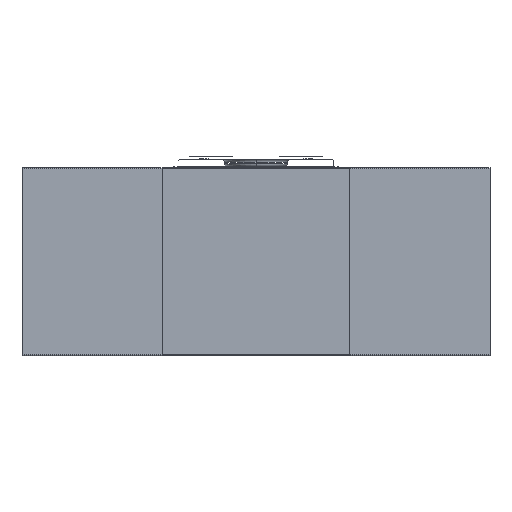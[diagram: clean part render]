
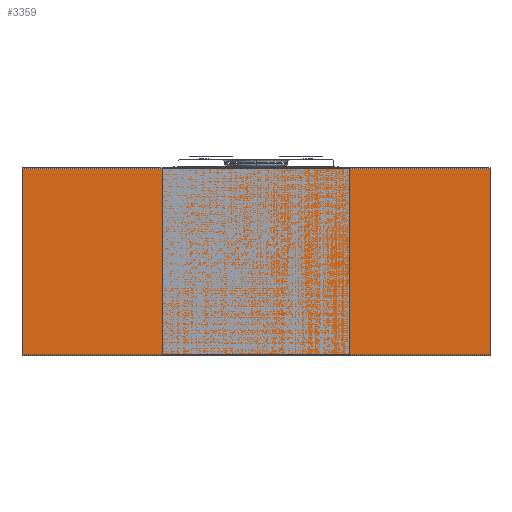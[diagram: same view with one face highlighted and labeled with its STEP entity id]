
A CAD part, left-side view. The second image highlights one B-rep face of the part: STEP entity #3359.
In plain terms, the highlighted planar face has unit normal (-1, 0, 0).
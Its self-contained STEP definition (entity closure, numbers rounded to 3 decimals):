
#2881=DIRECTION('',(0.,0.,1.));
#2882=VECTOR('',#2881,62.4);
#2883=CARTESIAN_POINT('',(-3.7,78.5,-59.7));
#2884=LINE('',#2883,#2882);
#2916=DIRECTION('',(0.,0.,-1.));
#2917=VECTOR('',#2916,62.4);
#2918=CARTESIAN_POINT('',(-3.7,-78.5,2.7));
#2919=LINE('',#2918,#2917);
#2990=DIRECTION('',(0.,-1.,0.));
#2991=VECTOR('',#2990,157.);
#2992=CARTESIAN_POINT('',(-3.7,78.5,2.7));
#2993=LINE('',#2992,#2991);
#2994=DIRECTION('',(0.,1.,0.));
#2995=VECTOR('',#2994,157.);
#2996=CARTESIAN_POINT('',(-3.7,-78.5,-59.7));
#2997=LINE('',#2996,#2995);
#3183=CARTESIAN_POINT('',(-3.7,-78.5,2.7));
#3185=VERTEX_POINT('',#3183);
#3186=CARTESIAN_POINT('',(-3.7,78.5,2.7));
#3187=VERTEX_POINT('',#3186);
#3191=CARTESIAN_POINT('',(-3.7,78.5,-59.7));
#3193=VERTEX_POINT('',#3191);
#3194=CARTESIAN_POINT('',(-3.7,-78.5,-59.7));
#3195=VERTEX_POINT('',#3194);
#3347=CARTESIAN_POINT('',(-3.7,-31.5,-60.));
#3348=DIRECTION('',(-1.,0.,0.));
#3349=DIRECTION('',(0.,0.,1.));
#3350=AXIS2_PLACEMENT_3D('',#3347,#3348,#3349);
#3351=PLANE('',#3350);
#3353=ORIENTED_EDGE('',*,*,#3352,.T.);
#3354=ORIENTED_EDGE('',*,*,#3298,.T.);
#3355=ORIENTED_EDGE('',*,*,#3340,.T.);
#3356=ORIENTED_EDGE('',*,*,#3267,.T.);
#3357=EDGE_LOOP('',(#3353,#3354,#3355,#3356));
#3358=FACE_OUTER_BOUND('',#3357,.F.);
#3359=ADVANCED_FACE('',(#3358),#3351,.T.);
#3267=EDGE_CURVE('',#3193,#3187,#2884,.T.);
#3298=EDGE_CURVE('',#3185,#3195,#2919,.T.);
#3340=EDGE_CURVE('',#3195,#3193,#2997,.T.);
#3352=EDGE_CURVE('',#3187,#3185,#2993,.T.);
